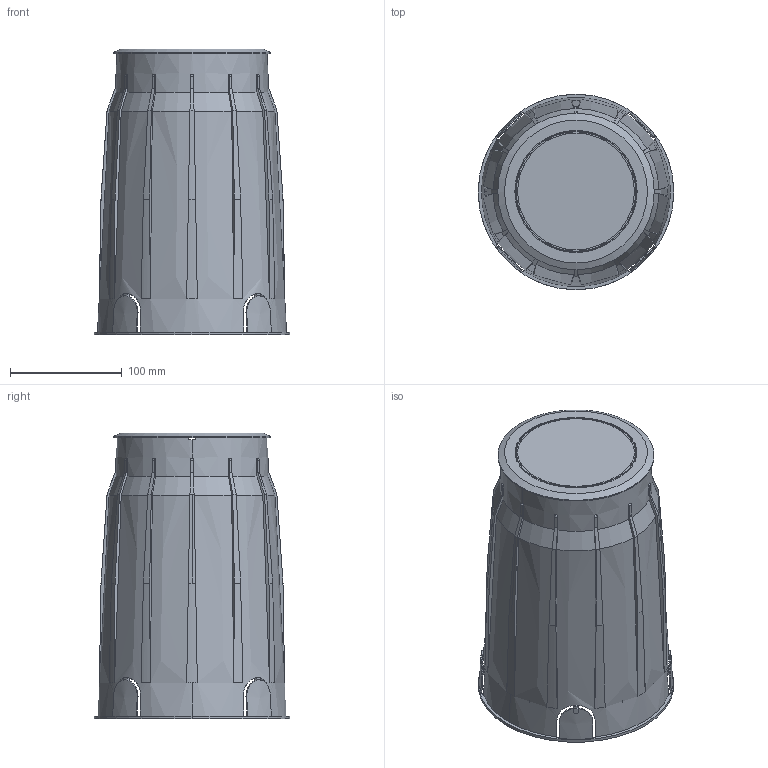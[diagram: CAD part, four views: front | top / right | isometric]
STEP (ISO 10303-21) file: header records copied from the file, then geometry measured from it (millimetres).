
FILE_DESCRIPTION (( 'STEP AP214' ), '1' );
FILE_NAME ('a_TERRA MINI WALLWASHER SKIN assy.STEP', '2022-09-16T07:46:44', ( '' ), ( '' ), 'SwSTEP 2.0', 'SolidWorks 2022', '' );
FILE_SCHEMA (( 'AUTOMOTIVE_DESIGN' ));
Length unit declared in the file: millimetre
Products named in the file (1): a_TERRA MINI WALLWASHER SKIN assy
Bounding box: 175 x 175 x 255.7 mm (x, y, z)
Surface area: 345602.7 mm2 (no closed solid volume)
Topology: 0 solids, 9 shells, 333 faces, 1291 edges, 955 vertices
Faces by surface type: plane 125, cone 109, bspline 50, cylinder 45, torus 4
Full cylindrical faces by diameter (mm): 7 x1, 13 x1, 14 x1, 22.3 x1, 106.881 x1, 107.881 x1, 140 x1
Entity records: 19876 total; most frequent: CARTESIAN_POINT 6510, ORIENTED_EDGE 2107, DIRECTION 1675, EDGE_CURVE 1271, VERTEX_POINT 949, AXIS2_PLACEMENT_3D 590, VECTOR 495, LINE 495
